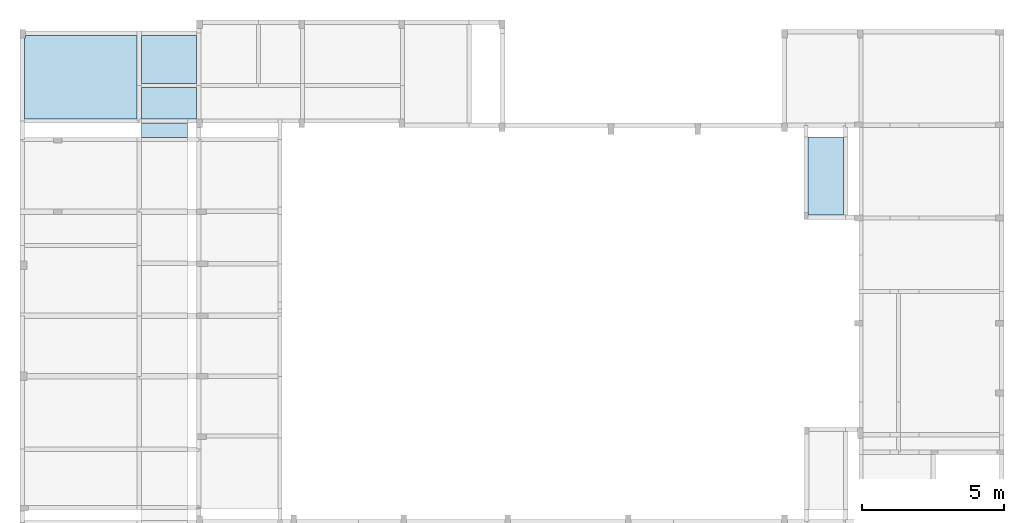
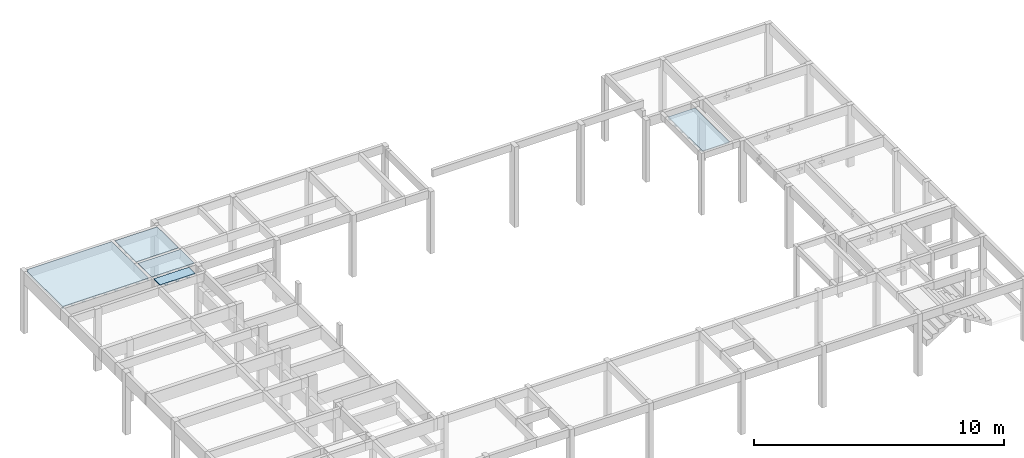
# One storey, part 16 of 21: 5 slabs.
"""IFC4 building model written with IfcOpenShell, lengths in centimetres."""

from ifc_helpers import new_model, si_unit, derived_unit, frame, origin_with_axes, place, context, project, spatial, polyline, outline, extrude, faceted_brep, material, element, save


model = new_model("IFC4")

# Units and contexts
model_context = context("Model", 3, precision=1e-05, world=origin_with_axes(), identifier="Body")
ifc_project = project(units=[si_unit("LENGTHUNIT", "METRE", prefix="CENTI"), si_unit("VOLUMEUNIT", "CUBIC_METRE"), si_unit("AREAUNIT", "SQUARE_METRE"), si_unit("POWERUNIT", "WATT"), si_unit("LUMINOUSFLUXUNIT", "LUMEN"), si_unit("ELECTRICCURRENTUNIT", "AMPERE"), si_unit("PRESSUREUNIT", "PASCAL", prefix="KILO"), si_unit("MASSUNIT", "GRAM", prefix="KILO"), si_unit("PLANEANGLEUNIT", "RADIAN"), derived_unit("VOLUMETRICFLOWRATEUNIT", [(si_unit("LENGTHUNIT", "METRE"), 3), (si_unit("TIMEUNIT", "SECOND"), -1)])], contexts=[model_context])

# Site, building, storey
site_placement = place(None, origin_with_axes())
site = spatial("IfcSite", under=ifc_project, at=site_placement)
building_placement = place(site_placement, frame((0.0, 0.0, -295.0)))
building = spatial("IfcBuilding", under=site, at=building_placement)
placement_1 = place(building_placement, origin_with_axes())
placement_2 = place(placement_1, frame((0.0, 0.0, 101.0), z_axis=(0.0, 0.0, 1.0), x_axis=(1.0, 0.0, 0.0)))
placement_3 = place(placement_2, frame((0.0, 0.0, 204.0), z_axis=(0.0, 0.0, 1.0), x_axis=(1.0, 0.0, 0.0)))
placement_4 = place(placement_3, frame((0.0, 0.0, 292.0), z_axis=(0.0, 0.0, 1.0), x_axis=(1.0, 0.0, 0.0)))
storey_placement = place(placement_4, frame((0.0, 0.0, 302.0), z_axis=(0.0, 0.0, 1.0), x_axis=(1.0, 0.0, 0.0)))
storey = spatial("IfcBuildingStorey", under=building, at=storey_placement, Name="PAVTO 02", CompositionType="ELEMENT", Elevation=604.0)

# Slabs
ifc_material = material(Name="Concreto")
slab_1_placement = place(storey_placement, frame((765.4005, -5272.2645, 0.0), z_axis=(0.0, 0.0, 1.0), x_axis=(1.0, 0.0, 0.0)))
element("IfcSlab", 1, at=slab_1_placement, inside=storey, material=ifc_material, Name="L201", PredefinedType="FLOOR", context=model_context, shape_type="SolidModel", body=[
    extrude(outline(polyline([(198.669, -147.424), (198.67, 147.425), (-193.67, 147.425), (-193.669, 137.714), (-198.669, 137.714), (-198.669, -147.424), (198.669, -147.424), (198.669, -147.424)])), frame((-0.0005, -0.0005, -4.0), z_axis=(0.0, 0.0, 1.0), x_axis=(1.0, 0.0, 0.0)), (0.0, 0.0, 1.0), 4.0),
    faceted_brep([(-5.0005, -147.4245, -12.0), (-5.0005, 147.4245, -12.0), (4.9995, 147.4245, -12.0), (4.9995, -147.4245, -12.0), (4.9995, -147.4245, -4.0), (4.9995, 147.4245, -4.0), (-5.0005, 147.4245, -4.0), (-5.0005, -147.4245, -4.0)], [[[0, 1, 2, 3]], [[4, 5, 6, 7]], [[4, 3, 5]], [[3, 2, 5]], [[5, 2, 6]], [[2, 1, 6]], [[6, 1, 7]], [[1, 0, 7]], [[7, 0, 4]], [[0, 3, 4]]]),
    faceted_brep([(-6.5005, -147.4245, -12.0), (-6.5005, 147.4245, -12.0), (-5.0005, 147.4245, -12.0), (-5.0005, -147.4245, -12.0), (-5.0005, -147.4245, -9.0), (-5.0005, 147.4245, -9.0), (-6.5005, 147.4245, -9.0), (-6.5005, -147.4245, -9.0)], [[[0, 1, 2, 3]], [[4, 5, 6, 7]], [[4, 3, 5]], [[3, 2, 5]], [[5, 2, 6]], [[2, 1, 6]], [[6, 1, 7]], [[1, 0, 7]], [[7, 0, 4]], [[0, 3, 4]]]),
    faceted_brep([(4.9995, -147.4245, -12.0), (4.9995, 147.4245, -12.0), (6.4995, 147.4245, -12.0), (6.4995, -147.4245, -12.0), (6.4995, -147.4245, -9.0), (6.4995, 147.4245, -9.0), (4.9995, 147.4245, -9.0), (4.9995, -147.4245, -9.0)], [[[0, 1, 2, 3]], [[4, 5, 6, 7]], [[4, 3, 5]], [[3, 2, 5]], [[5, 2, 6]], [[2, 1, 6]], [[6, 1, 7]], [[1, 0, 7]], [[7, 0, 4]], [[0, 3, 4]]]),
    faceted_brep([(-55.0005, -147.4245, -12.0), (-55.0005, 147.4245, -12.0), (-45.0005, 147.4245, -12.0), (-45.0005, -147.4245, -12.0), (-45.0005, -147.4245, -4.0), (-45.0005, 147.4245, -4.0), (-55.0005, 147.4245, -4.0), (-55.0005, -147.4245, -4.0)], [[[0, 1, 2, 3]], [[4, 5, 6, 7]], [[4, 3, 5]], [[3, 2, 5]], [[5, 2, 6]], [[2, 1, 6]], [[6, 1, 7]], [[1, 0, 7]], [[7, 0, 4]], [[0, 3, 4]]]),
    faceted_brep([(-56.5005, -147.4245, -12.0), (-56.5005, 147.4245, -12.0), (-55.0005, 147.4245, -12.0), (-55.0005, -147.4245, -12.0), (-55.0005, -147.4245, -9.0), (-55.0005, 147.4245, -9.0), (-56.5005, 147.4245, -9.0), (-56.5005, -147.4245, -9.0)], [[[0, 1, 2, 3]], [[4, 5, 6, 7]], [[4, 3, 5]], [[3, 2, 5]], [[5, 2, 6]], [[2, 1, 6]], [[6, 1, 7]], [[1, 0, 7]], [[7, 0, 4]], [[0, 3, 4]]]),
    faceted_brep([(-45.0005, -147.4245, -12.0), (-45.0005, 147.4245, -12.0), (-43.5005, 147.4245, -12.0), (-43.5005, -147.4245, -12.0), (-43.5005, -147.4245, -9.0), (-43.5005, 147.4245, -9.0), (-45.0005, 147.4245, -9.0), (-45.0005, -147.4245, -9.0)], [[[0, 1, 2, 3]], [[4, 5, 6, 7]], [[4, 3, 5]], [[3, 2, 5]], [[5, 2, 6]], [[2, 1, 6]], [[6, 1, 7]], [[1, 0, 7]], [[7, 0, 4]], [[0, 3, 4]]]),
    faceted_brep([(-105.0005, -147.4245, -12.0), (-105.0005, 147.4245, -12.0), (-95.0005, 147.4245, -12.0), (-95.0005, -147.4245, -12.0), (-95.0005, -147.4245, -4.0), (-95.0005, 147.4245, -4.0), (-105.0005, 147.4245, -4.0), (-105.0005, -147.4245, -4.0)], [[[0, 1, 2, 3]], [[4, 5, 6, 7]], [[4, 3, 5]], [[3, 2, 5]], [[5, 2, 6]], [[2, 1, 6]], [[6, 1, 7]], [[1, 0, 7]], [[7, 0, 4]], [[0, 3, 4]]]),
    faceted_brep([(-106.5005, -147.4245, -12.0), (-106.5005, 147.4245, -12.0), (-105.0005, 147.4245, -12.0), (-105.0005, -147.4245, -12.0), (-105.0005, -147.4245, -9.0), (-105.0005, 147.4245, -9.0), (-106.5005, 147.4245, -9.0), (-106.5005, -147.4245, -9.0)], [[[0, 1, 2, 3]], [[4, 5, 6, 7]], [[4, 3, 5]], [[3, 2, 5]], [[5, 2, 6]], [[2, 1, 6]], [[6, 1, 7]], [[1, 0, 7]], [[7, 0, 4]], [[0, 3, 4]]]),
    faceted_brep([(-95.0005, -147.4245, -12.0), (-95.0005, 147.4245, -12.0), (-93.5005, 147.4245, -12.0), (-93.5005, -147.4245, -12.0), (-93.5005, -147.4245, -9.0), (-93.5005, 147.4245, -9.0), (-95.0005, 147.4245, -9.0), (-95.0005, -147.4245, -9.0)], [[[0, 1, 2, 3]], [[4, 5, 6, 7]], [[4, 3, 5]], [[3, 2, 5]], [[5, 2, 6]], [[2, 1, 6]], [[6, 1, 7]], [[1, 0, 7]], [[7, 0, 4]], [[0, 3, 4]]]),
    faceted_brep([(-155.0005, -147.4245, -12.0), (-155.0005, 147.4245, -12.0), (-145.0005, 147.4245, -12.0), (-145.0005, -147.4245, -12.0), (-145.0005, -147.4245, -4.0), (-145.0005, 147.4245, -4.0), (-155.0005, 147.4245, -4.0), (-155.0005, -147.4245, -4.0)], [[[0, 1, 2, 3]], [[4, 5, 6, 7]], [[4, 3, 5]], [[3, 2, 5]], [[5, 2, 6]], [[2, 1, 6]], [[6, 1, 7]], [[1, 0, 7]], [[7, 0, 4]], [[0, 3, 4]]]),
    faceted_brep([(-156.5005, -147.4245, -12.0), (-156.5005, 147.4245, -12.0), (-155.0005, 147.4245, -12.0), (-155.0005, -147.4245, -12.0), (-155.0005, -147.4245, -9.0), (-155.0005, 147.4245, -9.0), (-156.5005, 147.4245, -9.0), (-156.5005, -147.4245, -9.0)], [[[0, 1, 2, 3]], [[4, 5, 6, 7]], [[4, 3, 5]], [[3, 2, 5]], [[5, 2, 6]], [[2, 1, 6]], [[6, 1, 7]], [[1, 0, 7]], [[7, 0, 4]], [[0, 3, 4]]]),
    faceted_brep([(-145.0005, -147.4245, -12.0), (-145.0005, 147.4245, -12.0), (-143.5005, 147.4245, -12.0), (-143.5005, -147.4245, -12.0), (-143.5005, -147.4245, -9.0), (-143.5005, 147.4245, -9.0), (-145.0005, 147.4245, -9.0), (-145.0005, -147.4245, -9.0)], [[[0, 1, 2, 3]], [[4, 5, 6, 7]], [[4, 3, 5]], [[3, 2, 5]], [[5, 2, 6]], [[2, 1, 6]], [[6, 1, 7]], [[1, 0, 7]], [[7, 0, 4]], [[0, 3, 4]]]),
    faceted_brep([(-198.6695, -147.4245, -12.0), (-198.6695, 137.7135, -12.0), (-195.0005, 137.7135, -12.0), (-195.0005, -147.4245, -12.0), (-195.0005, -147.4245, -4.0), (-195.0005, 137.7135, -4.0), (-198.6695, 137.7135, -4.0), (-198.6695, -147.4245, -4.0)], [[[0, 1, 2, 3]], [[4, 5, 6, 7]], [[4, 3, 5]], [[3, 2, 5]], [[5, 2, 6]], [[2, 1, 6]], [[6, 1, 7]], [[1, 0, 7]], [[7, 0, 4]], [[0, 3, 4]]]),
    faceted_brep([(-195.0005, -147.4245, -12.0), (-195.0005, 137.7135, -12.0), (-193.5005, 147.4245, -12.0), (-193.5005, -147.4245, -12.0), (-193.5005, -147.4245, -9.0), (-193.5005, 147.4245, -9.0), (-195.0005, 137.7135, -9.0), (-195.0005, -147.4245, -9.0)], [[[0, 1, 2, 3]], [[4, 5, 6, 7]], [[4, 3, 5]], [[3, 2, 5]], [[5, 2, 6]], [[2, 1, 6]], [[6, 1, 7]], [[1, 0, 7]], [[7, 0, 4]], [[0, 3, 4]]]),
    faceted_brep([(44.9995, -147.4245, -12.0), (44.9995, 147.4245, -12.0), (54.9995, 147.4245, -12.0), (54.9995, -147.4245, -12.0), (54.9995, -147.4245, -4.0), (54.9995, 147.4245, -4.0), (44.9995, 147.4245, -4.0), (44.9995, -147.4245, -4.0)], [[[0, 1, 2, 3]], [[4, 5, 6, 7]], [[4, 3, 5]], [[3, 2, 5]], [[5, 2, 6]], [[2, 1, 6]], [[6, 1, 7]], [[1, 0, 7]], [[7, 0, 4]], [[0, 3, 4]]]),
    faceted_brep([(43.4995, -147.4245, -12.0), (43.4995, 147.4245, -12.0), (44.9995, 147.4245, -12.0), (44.9995, -147.4245, -12.0), (44.9995, -147.4245, -9.0), (44.9995, 147.4245, -9.0), (43.4995, 147.4245, -9.0), (43.4995, -147.4245, -9.0)], [[[0, 1, 2, 3]], [[4, 5, 6, 7]], [[4, 3, 5]], [[3, 2, 5]], [[5, 2, 6]], [[2, 1, 6]], [[6, 1, 7]], [[1, 0, 7]], [[7, 0, 4]], [[0, 3, 4]]]),
    faceted_brep([(54.9995, -147.4245, -12.0), (54.9995, 147.4245, -12.0), (56.4995, 147.4245, -12.0), (56.4995, -147.4245, -12.0), (56.4995, -147.4245, -9.0), (56.4995, 147.4245, -9.0), (54.9995, 147.4245, -9.0), (54.9995, -147.4245, -9.0)], [[[0, 1, 2, 3]], [[4, 5, 6, 7]], [[4, 3, 5]], [[3, 2, 5]], [[5, 2, 6]], [[2, 1, 6]], [[6, 1, 7]], [[1, 0, 7]], [[7, 0, 4]], [[0, 3, 4]]]),
    faceted_brep([(94.9995, -147.4245, -12.0), (94.9995, 147.4245, -12.0), (104.9995, 147.4245, -12.0), (104.9995, -147.4245, -12.0), (104.9995, -147.4245, -4.0), (104.9995, 147.4245, -4.0), (94.9995, 147.4245, -4.0), (94.9995, -147.4245, -4.0)], [[[0, 1, 2, 3]], [[4, 5, 6, 7]], [[4, 3, 5]], [[3, 2, 5]], [[5, 2, 6]], [[2, 1, 6]], [[6, 1, 7]], [[1, 0, 7]], [[7, 0, 4]], [[0, 3, 4]]]),
    faceted_brep([(93.4995, -147.4245, -12.0), (93.4995, 147.4245, -12.0), (94.9995, 147.4245, -12.0), (94.9995, -147.4245, -12.0), (94.9995, -147.4245, -9.0), (94.9995, 147.4245, -9.0), (93.4995, 147.4245, -9.0), (93.4995, -147.4245, -9.0)], [[[0, 1, 2, 3]], [[4, 5, 6, 7]], [[4, 3, 5]], [[3, 2, 5]], [[5, 2, 6]], [[2, 1, 6]], [[6, 1, 7]], [[1, 0, 7]], [[7, 0, 4]], [[0, 3, 4]]]),
    faceted_brep([(104.9995, -147.4245, -12.0), (104.9995, 147.4245, -12.0), (106.4995, 147.4245, -12.0), (106.4995, -147.4245, -12.0), (106.4995, -147.4245, -9.0), (106.4995, 147.4245, -9.0), (104.9995, 147.4245, -9.0), (104.9995, -147.4245, -9.0)], [[[0, 1, 2, 3]], [[4, 5, 6, 7]], [[4, 3, 5]], [[3, 2, 5]], [[5, 2, 6]], [[2, 1, 6]], [[6, 1, 7]], [[1, 0, 7]], [[7, 0, 4]], [[0, 3, 4]]]),
    faceted_brep([(144.9995, -147.4245, -12.0), (144.9995, 147.4245, -12.0), (154.9995, 147.4245, -12.0), (154.9995, -147.4245, -12.0), (154.9995, -147.4245, -4.0), (154.9995, 147.4245, -4.0), (144.9995, 147.4245, -4.0), (144.9995, -147.4245, -4.0)], [[[0, 1, 2, 3]], [[4, 5, 6, 7]], [[4, 3, 5]], [[3, 2, 5]], [[5, 2, 6]], [[2, 1, 6]], [[6, 1, 7]], [[1, 0, 7]], [[7, 0, 4]], [[0, 3, 4]]]),
    faceted_brep([(143.4995, -147.4245, -12.0), (143.4995, 147.4245, -12.0), (144.9995, 147.4245, -12.0), (144.9995, -147.4245, -12.0), (144.9995, -147.4245, -9.0), (144.9995, 147.4245, -9.0), (143.4995, 147.4245, -9.0), (143.4995, -147.4245, -9.0)], [[[0, 1, 2, 3]], [[4, 5, 6, 7]], [[4, 3, 5]], [[3, 2, 5]], [[5, 2, 6]], [[2, 1, 6]], [[6, 1, 7]], [[1, 0, 7]], [[7, 0, 4]], [[0, 3, 4]]]),
    faceted_brep([(154.9995, -147.4245, -12.0), (154.9995, 147.4245, -12.0), (156.4995, 147.4245, -12.0), (156.4995, -147.4245, -12.0), (156.4995, -147.4245, -9.0), (156.4995, 147.4245, -9.0), (154.9995, 147.4245, -9.0), (154.9995, -147.4245, -9.0)], [[[0, 1, 2, 3]], [[4, 5, 6, 7]], [[4, 3, 5]], [[3, 2, 5]], [[5, 2, 6]], [[2, 1, 6]], [[6, 1, 7]], [[1, 0, 7]], [[7, 0, 4]], [[0, 3, 4]]]),
    faceted_brep([(194.9995, -147.4245, -12.0), (194.9995, 147.4245, -12.0), (198.669, 147.4245, -12.0), (198.669, -147.4245, -12.0), (198.669, -147.4245, -4.0), (198.669, 147.4245, -4.0), (194.9995, 147.4245, -4.0), (194.9995, -147.4245, -4.0)], [[[0, 1, 2, 3]], [[4, 5, 6, 7]], [[4, 3, 5]], [[3, 2, 5]], [[5, 2, 6]], [[2, 1, 6]], [[6, 1, 7]], [[1, 0, 7]], [[7, 0, 4]], [[0, 3, 4]]]),
    faceted_brep([(193.4995, -147.4245, -12.0), (193.4995, 147.4245, -12.0), (194.9995, 147.4245, -12.0), (194.9995, -147.4245, -12.0), (194.9995, -147.4245, -9.0), (194.9995, 147.4245, -9.0), (193.4995, 147.4245, -9.0), (193.4995, -147.4245, -9.0)], [[[0, 1, 2, 3]], [[4, 5, 6, 7]], [[4, 3, 5]], [[3, 2, 5]], [[5, 2, 6]], [[2, 1, 6]], [[6, 1, 7]], [[1, 0, 7]], [[7, 0, 4]], [[0, 3, 4]]]),
])
slab_2_placement = place(storey_placement, frame((1076.4845, -5209.5905, -2.0), z_axis=(0.0, 0.0, 1.0), x_axis=(1.0, 0.0, 0.0)))
element("IfcSlab", 2, at=slab_2_placement, inside=storey, material=ifc_material, Name="L202", PredefinedType="FLOOR", context=model_context, shape_type="SolidModel", body=[
    extrude(outline(polyline([(97.414, 84.749), (-97.414, 84.749), (-97.415, -84.75), (97.414, -84.75), (97.414, 84.749), (97.414, 84.749)])), frame((0.0005, 0.0005, -4.0), z_axis=(0.0, 0.0, 1.0), x_axis=(1.0, 0.0, 0.0)), (0.0, 0.0, 1.0), 4.0),
    faceted_brep([(-97.414, -39.9995, -12.0), (97.4145, -39.9995, -12.0), (97.4145, -49.9995, -12.0), (-97.414, -49.9995, -12.0), (-97.414, -49.9995, -4.0), (97.4145, -49.9995, -4.0), (97.4145, -39.9995, -4.0), (-97.414, -39.9995, -4.0)], [[[0, 1, 2, 3]], [[4, 5, 6, 7]], [[4, 3, 5]], [[3, 2, 5]], [[5, 2, 6]], [[2, 1, 6]], [[6, 1, 7]], [[1, 0, 7]], [[7, 0, 4]], [[0, 3, 4]]]),
    faceted_brep([(-97.414, -38.4995, -12.0), (97.4145, -38.4995, -12.0), (97.4145, -39.9995, -12.0), (-97.414, -39.9995, -12.0), (-97.414, -39.9995, -9.0), (97.4145, -39.9995, -9.0), (97.4145, -38.4995, -9.0), (-97.414, -38.4995, -9.0)], [[[0, 1, 2, 3]], [[4, 5, 6, 7]], [[4, 3, 5]], [[3, 2, 5]], [[5, 2, 6]], [[2, 1, 6]], [[6, 1, 7]], [[1, 0, 7]], [[7, 0, 4]], [[0, 3, 4]]]),
    faceted_brep([(-97.414, -49.9995, -12.0), (97.4145, -49.9995, -12.0), (97.4145, -51.4995, -12.0), (-97.414, -51.4995, -12.0), (-97.414, -51.4995, -9.0), (97.4145, -51.4995, -9.0), (97.4145, -49.9995, -9.0), (-97.414, -49.9995, -9.0)], [[[0, 1, 2, 3]], [[4, 5, 6, 7]], [[4, 3, 5]], [[3, 2, 5]], [[5, 2, 6]], [[2, 1, 6]], [[6, 1, 7]], [[1, 0, 7]], [[7, 0, 4]], [[0, 3, 4]]]),
    faceted_brep([(-97.414, 10.0005, -12.0), (97.4145, 10.0005, -12.0), (97.4145, 0.0005, -12.0), (-97.414, 0.0005, -12.0), (-97.414, 0.0005, -4.0), (97.4145, 0.0005, -4.0), (97.4145, 10.0005, -4.0), (-97.414, 10.0005, -4.0)], [[[0, 1, 2, 3]], [[4, 5, 6, 7]], [[4, 3, 5]], [[3, 2, 5]], [[5, 2, 6]], [[2, 1, 6]], [[6, 1, 7]], [[1, 0, 7]], [[7, 0, 4]], [[0, 3, 4]]]),
    faceted_brep([(-97.414, 11.5005, -12.0), (97.4145, 11.5005, -12.0), (97.4145, 10.0005, -12.0), (-97.414, 10.0005, -12.0), (-97.414, 10.0005, -9.0), (97.4145, 10.0005, -9.0), (97.4145, 11.5005, -9.0), (-97.414, 11.5005, -9.0)], [[[0, 1, 2, 3]], [[4, 5, 6, 7]], [[4, 3, 5]], [[3, 2, 5]], [[5, 2, 6]], [[2, 1, 6]], [[6, 1, 7]], [[1, 0, 7]], [[7, 0, 4]], [[0, 3, 4]]]),
    faceted_brep([(-97.414, 0.0005, -12.0), (97.4145, 0.0005, -12.0), (97.4145, -1.4995, -12.0), (-97.414, -1.4995, -12.0), (-97.414, -1.4995, -9.0), (97.4145, -1.4995, -9.0), (97.4145, 0.0005, -9.0), (-97.414, 0.0005, -9.0)], [[[0, 1, 2, 3]], [[4, 5, 6, 7]], [[4, 3, 5]], [[3, 2, 5]], [[5, 2, 6]], [[2, 1, 6]], [[6, 1, 7]], [[1, 0, 7]], [[7, 0, 4]], [[0, 3, 4]]]),
    faceted_brep([(-97.414, 60.0005, -12.0), (97.4145, 60.0005, -12.0), (97.4145, 50.0005, -12.0), (-97.414, 50.0005, -12.0), (-97.414, 50.0005, -4.0), (97.4145, 50.0005, -4.0), (97.4145, 60.0005, -4.0), (-97.414, 60.0005, -4.0)], [[[0, 1, 2, 3]], [[4, 5, 6, 7]], [[4, 3, 5]], [[3, 2, 5]], [[5, 2, 6]], [[2, 1, 6]], [[6, 1, 7]], [[1, 0, 7]], [[7, 0, 4]], [[0, 3, 4]]]),
    faceted_brep([(-97.414, 61.5005, -12.0), (97.4145, 61.5005, -12.0), (97.4145, 60.0005, -12.0), (-97.414, 60.0005, -12.0), (-97.414, 60.0005, -9.0), (97.4145, 60.0005, -9.0), (97.4145, 61.5005, -9.0), (-97.414, 61.5005, -9.0)], [[[0, 1, 2, 3]], [[4, 5, 6, 7]], [[4, 3, 5]], [[3, 2, 5]], [[5, 2, 6]], [[2, 1, 6]], [[6, 1, 7]], [[1, 0, 7]], [[7, 0, 4]], [[0, 3, 4]]]),
    faceted_brep([(-97.414, 50.0005, -12.0), (97.4145, 50.0005, -12.0), (97.4145, 48.5005, -12.0), (-97.414, 48.5005, -12.0), (-97.414, 48.5005, -9.0), (97.4145, 48.5005, -9.0), (97.4145, 50.0005, -9.0), (-97.414, 50.0005, -9.0)], [[[0, 1, 2, 3]], [[4, 5, 6, 7]], [[4, 3, 5]], [[3, 2, 5]], [[5, 2, 6]], [[2, 1, 6]], [[6, 1, 7]], [[1, 0, 7]], [[7, 0, 4]], [[0, 3, 4]]]),
])
slab_3_placement = place(storey_placement, frame((1076.485, -5364.515, 0.0), z_axis=(0.0, 0.0, 1.0), x_axis=(1.0, 0.0, 0.0)))
element("IfcSlab", 3, at=slab_3_placement, inside=storey, material=ifc_material, Name="L209", PredefinedType="FLOOR", context=model_context, shape_type="SolidModel", body=[
    extrude(outline(polyline([(97.415, 55.174), (-97.414, 55.174), (-97.415, -55.174), (97.415, -55.174), (97.415, 55.174), (97.415, 55.174)])), frame((0.0, 0.0, -4.0), z_axis=(0.0, 0.0, 1.0), x_axis=(1.0, 0.0, 0.0)), (0.0, 0.0, 1.0), 4.0),
    faceted_brep([(-21.5, -55.174, -12.0), (-21.5, 55.174, -12.0), (-11.5, 55.174, -12.0), (-11.5, -55.174, -12.0), (-11.5, -55.174, -4.0), (-11.5, 55.174, -4.0), (-21.5, 55.174, -4.0), (-21.5, -55.174, -4.0)], [[[0, 1, 2, 3]], [[4, 5, 6, 7]], [[4, 3, 5]], [[3, 2, 5]], [[5, 2, 6]], [[2, 1, 6]], [[6, 1, 7]], [[1, 0, 7]], [[7, 0, 4]], [[0, 3, 4]]]),
    faceted_brep([(-23.0, -55.174, -12.0), (-23.0, 55.174, -12.0), (-21.5, 55.174, -12.0), (-21.5, -55.174, -12.0), (-21.5, -55.174, -9.0), (-21.5, 55.174, -9.0), (-23.0, 55.174, -9.0), (-23.0, -55.174, -9.0)], [[[0, 1, 2, 3]], [[4, 5, 6, 7]], [[4, 3, 5]], [[3, 2, 5]], [[5, 2, 6]], [[2, 1, 6]], [[6, 1, 7]], [[1, 0, 7]], [[7, 0, 4]], [[0, 3, 4]]]),
    faceted_brep([(-11.5, -55.174, -12.0), (-11.5, 55.174, -12.0), (-10.0, 55.174, -12.0), (-10.0, -55.174, -12.0), (-10.0, -55.174, -9.0), (-10.0, 55.174, -9.0), (-11.5, 55.174, -9.0), (-11.5, -55.174, -9.0)], [[[0, 1, 2, 3]], [[4, 5, 6, 7]], [[4, 3, 5]], [[3, 2, 5]], [[5, 2, 6]], [[2, 1, 6]], [[6, 1, 7]], [[1, 0, 7]], [[7, 0, 4]], [[0, 3, 4]]]),
    faceted_brep([(-71.5, -55.174, -12.0), (-71.5, 55.174, -12.0), (-61.5, 55.174, -12.0), (-61.5, -55.174, -12.0), (-61.5, -55.174, -4.0), (-61.5, 55.174, -4.0), (-71.5, 55.174, -4.0), (-71.5, -55.174, -4.0)], [[[0, 1, 2, 3]], [[4, 5, 6, 7]], [[4, 3, 5]], [[3, 2, 5]], [[5, 2, 6]], [[2, 1, 6]], [[6, 1, 7]], [[1, 0, 7]], [[7, 0, 4]], [[0, 3, 4]]]),
    faceted_brep([(-73.0, -55.174, -12.0), (-73.0, 55.174, -12.0), (-71.5, 55.174, -12.0), (-71.5, -55.174, -12.0), (-71.5, -55.174, -9.0), (-71.5, 55.174, -9.0), (-73.0, 55.174, -9.0), (-73.0, -55.174, -9.0)], [[[0, 1, 2, 3]], [[4, 5, 6, 7]], [[4, 3, 5]], [[3, 2, 5]], [[5, 2, 6]], [[2, 1, 6]], [[6, 1, 7]], [[1, 0, 7]], [[7, 0, 4]], [[0, 3, 4]]]),
    faceted_brep([(-61.5, -55.174, -12.0), (-61.5, 55.174, -12.0), (-60.0, 55.174, -12.0), (-60.0, -55.174, -12.0), (-60.0, -55.174, -9.0), (-60.0, 55.174, -9.0), (-61.5, 55.174, -9.0), (-61.5, -55.174, -9.0)], [[[0, 1, 2, 3]], [[4, 5, 6, 7]], [[4, 3, 5]], [[3, 2, 5]], [[5, 2, 6]], [[2, 1, 6]], [[6, 1, 7]], [[1, 0, 7]], [[7, 0, 4]], [[0, 3, 4]]]),
    faceted_brep([(28.5, -55.174, -12.0), (28.5, 55.174, -12.0), (38.5, 55.174, -12.0), (38.5, -55.174, -12.0), (38.5, -55.174, -4.0), (38.5, 55.174, -4.0), (28.5, 55.174, -4.0), (28.5, -55.174, -4.0)], [[[0, 1, 2, 3]], [[4, 5, 6, 7]], [[4, 3, 5]], [[3, 2, 5]], [[5, 2, 6]], [[2, 1, 6]], [[6, 1, 7]], [[1, 0, 7]], [[7, 0, 4]], [[0, 3, 4]]]),
    faceted_brep([(27.0, -55.174, -12.0), (27.0, 55.174, -12.0), (28.5, 55.174, -12.0), (28.5, -55.174, -12.0), (28.5, -55.174, -9.0), (28.5, 55.174, -9.0), (27.0, 55.174, -9.0), (27.0, -55.174, -9.0)], [[[0, 1, 2, 3]], [[4, 5, 6, 7]], [[4, 3, 5]], [[3, 2, 5]], [[5, 2, 6]], [[2, 1, 6]], [[6, 1, 7]], [[1, 0, 7]], [[7, 0, 4]], [[0, 3, 4]]]),
    faceted_brep([(38.5, -55.174, -12.0), (38.5, 55.174, -12.0), (40.0, 55.174, -12.0), (40.0, -55.174, -12.0), (40.0, -55.174, -9.0), (40.0, 55.174, -9.0), (38.5, 55.174, -9.0), (38.5, -55.174, -9.0)], [[[0, 1, 2, 3]], [[4, 5, 6, 7]], [[4, 3, 5]], [[3, 2, 5]], [[5, 2, 6]], [[2, 1, 6]], [[6, 1, 7]], [[1, 0, 7]], [[7, 0, 4]], [[0, 3, 4]]]),
    faceted_brep([(78.5, -55.174, -12.0), (78.5, 55.174, -12.0), (88.5, 55.174, -12.0), (88.5, -55.174, -12.0), (88.5, -55.174, -4.0), (88.5, 55.174, -4.0), (78.5, 55.174, -4.0), (78.5, -55.174, -4.0)], [[[0, 1, 2, 3]], [[4, 5, 6, 7]], [[4, 3, 5]], [[3, 2, 5]], [[5, 2, 6]], [[2, 1, 6]], [[6, 1, 7]], [[1, 0, 7]], [[7, 0, 4]], [[0, 3, 4]]]),
    faceted_brep([(77.0, -55.174, -12.0), (77.0, 55.174, -12.0), (78.5, 55.174, -12.0), (78.5, -55.174, -12.0), (78.5, -55.174, -9.0), (78.5, 55.174, -9.0), (77.0, 55.174, -9.0), (77.0, -55.174, -9.0)], [[[0, 1, 2, 3]], [[4, 5, 6, 7]], [[4, 3, 5]], [[3, 2, 5]], [[5, 2, 6]], [[2, 1, 6]], [[6, 1, 7]], [[1, 0, 7]], [[7, 0, 4]], [[0, 3, 4]]]),
    faceted_brep([(88.5, -55.174, -12.0), (88.5, 55.174, -12.0), (90.0, 55.174, -12.0), (90.0, -55.174, -12.0), (90.0, -55.174, -9.0), (90.0, 55.174, -9.0), (88.5, 55.174, -9.0), (88.5, -55.174, -9.0)], [[[0, 1, 2, 3]], [[4, 5, 6, 7]], [[4, 3, 5]], [[3, 2, 5]], [[5, 2, 6]], [[2, 1, 6]], [[6, 1, 7]], [[1, 0, 7]], [[7, 0, 4]], [[0, 3, 4]]]),
])
slab_4_placement = place(storey_placement, frame((1060.4405, -5459.4245, 0.0), z_axis=(0.0, 0.0, 1.0), x_axis=(1.0, 0.0, 0.0)))
element("IfcSlab", 4, at=slab_4_placement, inside=storey, material=ifc_material, Name="L212", PredefinedType="FLOOR", context=model_context, shape_type="SolidModel", body=[
    extrude(outline(polyline([(80.46, 24.735), (-80.459, 24.735), (-80.459, -24.734), (80.46, -24.734), (80.46, 24.735), (80.46, 24.735)])), frame((-0.0005, -0.0005, -4.0), z_axis=(0.0, 0.0, 1.0), x_axis=(1.0, 0.0, 0.0)), (0.0, 0.0, 1.0), 4.0),
    faceted_brep([(-5.0005, -24.7345, -12.0), (-5.0005, 24.7345, -12.0), (4.9995, 24.7345, -12.0), (4.9995, -24.7345, -12.0), (4.9995, -24.7345, -4.0), (4.9995, 24.7345, -4.0), (-5.0005, 24.7345, -4.0), (-5.0005, -24.7345, -4.0)], [[[0, 1, 2, 3]], [[4, 5, 6, 7]], [[4, 3, 5]], [[3, 2, 5]], [[5, 2, 6]], [[2, 1, 6]], [[6, 1, 7]], [[1, 0, 7]], [[7, 0, 4]], [[0, 3, 4]]]),
    faceted_brep([(-6.5005, -24.7345, -12.0), (-6.5005, 24.7345, -12.0), (-5.0005, 24.7345, -12.0), (-5.0005, -24.7345, -12.0), (-5.0005, -24.7345, -9.0), (-5.0005, 24.7345, -9.0), (-6.5005, 24.7345, -9.0), (-6.5005, -24.7345, -9.0)], [[[0, 1, 2, 3]], [[4, 5, 6, 7]], [[4, 3, 5]], [[3, 2, 5]], [[5, 2, 6]], [[2, 1, 6]], [[6, 1, 7]], [[1, 0, 7]], [[7, 0, 4]], [[0, 3, 4]]]),
    faceted_brep([(4.9995, -24.7345, -12.0), (4.9995, 24.7345, -12.0), (6.4995, 24.7345, -12.0), (6.4995, -24.7345, -12.0), (6.4995, -24.7345, -9.0), (6.4995, 24.7345, -9.0), (4.9995, 24.7345, -9.0), (4.9995, -24.7345, -9.0)], [[[0, 1, 2, 3]], [[4, 5, 6, 7]], [[4, 3, 5]], [[3, 2, 5]], [[5, 2, 6]], [[2, 1, 6]], [[6, 1, 7]], [[1, 0, 7]], [[7, 0, 4]], [[0, 3, 4]]]),
    faceted_brep([(-55.0005, -24.7345, -12.0), (-55.0005, 24.7345, -12.0), (-45.0005, 24.7345, -12.0), (-45.0005, -24.7345, -12.0), (-45.0005, -24.7345, -4.0), (-45.0005, 24.7345, -4.0), (-55.0005, 24.7345, -4.0), (-55.0005, -24.7345, -4.0)], [[[0, 1, 2, 3]], [[4, 5, 6, 7]], [[4, 3, 5]], [[3, 2, 5]], [[5, 2, 6]], [[2, 1, 6]], [[6, 1, 7]], [[1, 0, 7]], [[7, 0, 4]], [[0, 3, 4]]]),
    faceted_brep([(-56.5005, -24.7345, -12.0), (-56.5005, 24.7345, -12.0), (-55.0005, 24.7345, -12.0), (-55.0005, -24.7345, -12.0), (-55.0005, -24.7345, -9.0), (-55.0005, 24.7345, -9.0), (-56.5005, 24.7345, -9.0), (-56.5005, -24.7345, -9.0)], [[[0, 1, 2, 3]], [[4, 5, 6, 7]], [[4, 3, 5]], [[3, 2, 5]], [[5, 2, 6]], [[2, 1, 6]], [[6, 1, 7]], [[1, 0, 7]], [[7, 0, 4]], [[0, 3, 4]]]),
    faceted_brep([(-45.0005, -24.7345, -12.0), (-45.0005, 24.7345, -12.0), (-43.5005, 24.7345, -12.0), (-43.5005, -24.7345, -12.0), (-43.5005, -24.7345, -9.0), (-43.5005, 24.7345, -9.0), (-45.0005, 24.7345, -9.0), (-45.0005, -24.7345, -9.0)], [[[0, 1, 2, 3]], [[4, 5, 6, 7]], [[4, 3, 5]], [[3, 2, 5]], [[5, 2, 6]], [[2, 1, 6]], [[6, 1, 7]], [[1, 0, 7]], [[7, 0, 4]], [[0, 3, 4]]]),
    faceted_brep([(44.9995, -24.7345, -12.0), (44.9995, 24.7345, -12.0), (54.9995, 24.7345, -12.0), (54.9995, -24.7345, -12.0), (54.9995, -24.7345, -4.0), (54.9995, 24.7345, -4.0), (44.9995, 24.7345, -4.0), (44.9995, -24.7345, -4.0)], [[[0, 1, 2, 3]], [[4, 5, 6, 7]], [[4, 3, 5]], [[3, 2, 5]], [[5, 2, 6]], [[2, 1, 6]], [[6, 1, 7]], [[1, 0, 7]], [[7, 0, 4]], [[0, 3, 4]]]),
    faceted_brep([(43.4995, -24.7345, -12.0), (43.4995, 24.7345, -12.0), (44.9995, 24.7345, -12.0), (44.9995, -24.7345, -12.0), (44.9995, -24.7345, -9.0), (44.9995, 24.7345, -9.0), (43.4995, 24.7345, -9.0), (43.4995, -24.7345, -9.0)], [[[0, 1, 2, 3]], [[4, 5, 6, 7]], [[4, 3, 5]], [[3, 2, 5]], [[5, 2, 6]], [[2, 1, 6]], [[6, 1, 7]], [[1, 0, 7]], [[7, 0, 4]], [[0, 3, 4]]]),
    faceted_brep([(54.9995, -24.7345, -12.0), (54.9995, 24.7345, -12.0), (56.4995, 24.7345, -12.0), (56.4995, -24.7345, -12.0), (56.4995, -24.7345, -9.0), (56.4995, 24.7345, -9.0), (54.9995, 24.7345, -9.0), (54.9995, -24.7345, -9.0)], [[[0, 1, 2, 3]], [[4, 5, 6, 7]], [[4, 3, 5]], [[3, 2, 5]], [[5, 2, 6]], [[2, 1, 6]], [[6, 1, 7]], [[1, 0, 7]], [[7, 0, 4]], [[0, 3, 4]]]),
])
slab_5_placement = place(storey_placement, frame((3389.3145, -5620.41, -2.0), z_axis=(0.0, 0.0, 1.0), x_axis=(1.0, 0.0, 0.0)))
element("IfcSlab", 5, at=slab_5_placement, inside=storey, material=ifc_material, Name="L215", PredefinedType="FLOOR", context=model_context, shape_type="SolidModel", body=[
    extrude(outline(polyline([(62.395264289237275, 138.139), (-62.41373571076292, 138.139), (-62.41473571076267, -138.14), (62.41426428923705, -138.14), (62.395264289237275, 138.139), (62.395264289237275, 138.139)])), frame((0.000235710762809, 0.0, -4.0), z_axis=(0.0, 0.0, 1.0), x_axis=(1.0, 0.0, 0.0)), (0.0, 0.0, 1.0), 4.0),
    faceted_brep([(-62.414, 138.14, -12.0), (62.395499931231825, 138.14, -12.0), (62.39618764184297, 128.14, -12.0), (-62.414, 128.14, -12.0), (-62.414, 128.14, -4.0), (62.39618764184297, 128.14, -4.0), (62.395499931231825, 138.14, -4.0), (-62.414, 138.14, -4.0)], [[[0, 1, 2, 3]], [[4, 5, 6, 7]], [[4, 3, 5]], [[3, 2, 5]], [[5, 2, 6]], [[2, 1, 6]], [[6, 1, 7]], [[1, 0, 7]], [[7, 0, 4]], [[0, 3, 4]]]),
    faceted_brep([(-62.414, 128.14, -12.0), (62.39618764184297, 128.14, -12.0), (62.396290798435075, 126.64, -12.0), (-62.414, 126.64, -12.0), (-62.414, 126.64, -9.0), (62.396290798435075, 126.64, -9.0), (62.39618764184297, 128.14, -9.0), (-62.414, 128.14, -9.0)], [[[0, 1, 2, 3]], [[4, 5, 6, 7]], [[4, 3, 5]], [[3, 2, 5]], [[5, 2, 6]], [[2, 1, 6]], [[6, 1, 7]], [[1, 0, 7]], [[7, 0, 4]], [[0, 3, 4]]]),
    faceted_brep([(-62.414, 88.14, -12.0), (62.398938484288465, 88.14, -12.0), (62.39962619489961, 78.14, -12.0), (-62.414, 78.14, -12.0), (-62.414, 78.14, -4.0), (62.39962619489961, 78.14, -4.0), (62.398938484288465, 88.14, -4.0), (-62.414, 88.14, -4.0)], [[[0, 1, 2, 3]], [[4, 5, 6, 7]], [[4, 3, 5]], [[3, 2, 5]], [[5, 2, 6]], [[2, 1, 6]], [[6, 1, 7]], [[1, 0, 7]], [[7, 0, 4]], [[0, 3, 4]]]),
    faceted_brep([(-62.414, 89.64, -12.0), (62.398835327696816, 89.64, -12.0), (62.398938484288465, 88.14, -12.0), (-62.414, 88.14, -12.0), (-62.414, 88.14, -9.0), (62.398938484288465, 88.14, -9.0), (62.398835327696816, 89.64, -9.0), (-62.414, 89.64, -9.0)], [[[0, 1, 2, 3]], [[4, 5, 6, 7]], [[4, 3, 5]], [[3, 2, 5]], [[5, 2, 6]], [[2, 1, 6]], [[6, 1, 7]], [[1, 0, 7]], [[7, 0, 4]], [[0, 3, 4]]]),
    faceted_brep([(-62.414, 78.14, -12.0), (62.39962619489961, 78.14, -12.0), (62.399729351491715, 76.64, -12.0), (-62.414, 76.64, -12.0), (-62.414, 76.64, -9.0), (62.399729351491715, 76.64, -9.0), (62.39962619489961, 78.14, -9.0), (-62.414, 78.14, -9.0)], [[[0, 1, 2, 3]], [[4, 5, 6, 7]], [[4, 3, 5]], [[3, 2, 5]], [[5, 2, 6]], [[2, 1, 6]], [[6, 1, 7]], [[1, 0, 7]], [[7, 0, 4]], [[0, 3, 4]]]),
    faceted_brep([(-62.414, 38.14, -12.0), (62.402377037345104, 38.14, -12.0), (62.403064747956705, 28.14, -12.0), (-62.414, 28.14, -12.0), (-62.414, 28.14, -4.0), (62.403064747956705, 28.14, -4.0), (62.402377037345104, 38.14, -4.0), (-62.414, 38.14, -4.0)], [[[0, 1, 2, 3]], [[4, 5, 6, 7]], [[4, 3, 5]], [[3, 2, 5]], [[5, 2, 6]], [[2, 1, 6]], [[6, 1, 7]], [[1, 0, 7]], [[7, 0, 4]], [[0, 3, 4]]]),
    faceted_brep([(-62.414, 39.64, -12.0), (62.402273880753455, 39.64, -12.0), (62.402377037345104, 38.14, -12.0), (-62.414, 38.14, -12.0), (-62.414, 38.14, -9.0), (62.402377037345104, 38.14, -9.0), (62.402273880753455, 39.64, -9.0), (-62.414, 39.64, -9.0)], [[[0, 1, 2, 3]], [[4, 5, 6, 7]], [[4, 3, 5]], [[3, 2, 5]], [[5, 2, 6]], [[2, 1, 6]], [[6, 1, 7]], [[1, 0, 7]], [[7, 0, 4]], [[0, 3, 4]]]),
    faceted_brep([(-62.414, 28.14, -12.0), (62.403064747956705, 28.14, -12.0), (62.403167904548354, 26.64, -12.0), (-62.414, 26.64, -12.0), (-62.414, 26.64, -9.0), (62.403167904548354, 26.64, -9.0), (62.403064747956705, 28.14, -9.0), (-62.414, 28.14, -9.0)], [[[0, 1, 2, 3]], [[4, 5, 6, 7]], [[4, 3, 5]], [[3, 2, 5]], [[5, 2, 6]], [[2, 1, 6]], [[6, 1, 7]], [[1, 0, 7]], [[7, 0, 4]], [[0, 3, 4]]]),
    faceted_brep([(-62.414, -11.86, -12.0), (62.4058155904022, -11.86, -12.0), (62.4065033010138, -21.86, -12.0), (-62.414, -21.86, -12.0), (-62.414, -21.86, -4.0), (62.4065033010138, -21.86, -4.0), (62.4058155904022, -11.86, -4.0), (-62.414, -11.86, -4.0)], [[[0, 1, 2, 3]], [[4, 5, 6, 7]], [[4, 3, 5]], [[3, 2, 5]], [[5, 2, 6]], [[2, 1, 6]], [[6, 1, 7]], [[1, 0, 7]], [[7, 0, 4]], [[0, 3, 4]]]),
    faceted_brep([(-62.414, -10.36, -12.0), (62.40571243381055, -10.36, -12.0), (62.4058155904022, -11.86, -12.0), (-62.414, -11.86, -12.0), (-62.414, -11.86, -9.0), (62.4058155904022, -11.86, -9.0), (62.40571243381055, -10.36, -9.0), (-62.414, -10.36, -9.0)], [[[0, 1, 2, 3]], [[4, 5, 6, 7]], [[4, 3, 5]], [[3, 2, 5]], [[5, 2, 6]], [[2, 1, 6]], [[6, 1, 7]], [[1, 0, 7]], [[7, 0, 4]], [[0, 3, 4]]]),
    faceted_brep([(-62.414, -21.86, -12.0), (62.4065033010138, -21.86, -12.0), (62.40660645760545, -23.36, -12.0), (-62.414, -23.36, -12.0), (-62.414, -23.36, -9.0), (62.40660645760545, -23.36, -9.0), (62.4065033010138, -21.86, -9.0), (-62.414, -21.86, -9.0)], [[[0, 1, 2, 3]], [[4, 5, 6, 7]], [[4, 3, 5]], [[3, 2, 5]], [[5, 2, 6]], [[2, 1, 6]], [[6, 1, 7]], [[1, 0, 7]], [[7, 0, 4]], [[0, 3, 4]]]),
    faceted_brep([(-62.414, -61.86, -12.0), (62.40925414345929, -61.86, -12.0), (62.40994185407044, -71.86, -12.0), (-62.414, -71.86, -12.0), (-62.414, -71.86, -4.0), (62.40994185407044, -71.86, -4.0), (62.40925414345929, -61.86, -4.0), (-62.414, -61.86, -4.0)], [[[0, 1, 2, 3]], [[4, 5, 6, 7]], [[4, 3, 5]], [[3, 2, 5]], [[5, 2, 6]], [[2, 1, 6]], [[6, 1, 7]], [[1, 0, 7]], [[7, 0, 4]], [[0, 3, 4]]]),
    faceted_brep([(-62.414, -60.36, -12.0), (62.40915098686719, -60.36, -12.0), (62.40925414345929, -61.86, -12.0), (-62.414, -61.86, -12.0), (-62.414, -61.86, -9.0), (62.40925414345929, -61.86, -9.0), (62.40915098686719, -60.36, -9.0), (-62.414, -60.36, -9.0)], [[[0, 1, 2, 3]], [[4, 5, 6, 7]], [[4, 3, 5]], [[3, 2, 5]], [[5, 2, 6]], [[2, 1, 6]], [[6, 1, 7]], [[1, 0, 7]], [[7, 0, 4]], [[0, 3, 4]]]),
    faceted_brep([(-62.414, -71.86, -12.0), (62.40994185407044, -71.86, -12.0), (62.41004501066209, -73.36, -12.0), (-62.414, -73.36, -12.0), (-62.414, -73.36, -9.0), (62.41004501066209, -73.36, -9.0), (62.40994185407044, -71.86, -9.0), (-62.414, -71.86, -9.0)], [[[0, 1, 2, 3]], [[4, 5, 6, 7]], [[4, 3, 5]], [[3, 2, 5]], [[5, 2, 6]], [[2, 1, 6]], [[6, 1, 7]], [[1, 0, 7]], [[7, 0, 4]], [[0, 3, 4]]]),
    faceted_brep([(-62.414, -111.86, -12.0), (62.41269269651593, -111.86, -12.0), (62.41338040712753, -121.86, -12.0), (-62.414, -121.86, -12.0), (-62.414, -121.86, -4.0), (62.41338040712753, -121.86, -4.0), (62.41269269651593, -111.86, -4.0), (-62.414, -111.86, -4.0)], [[[0, 1, 2, 3]], [[4, 5, 6, 7]], [[4, 3, 5]], [[3, 2, 5]], [[5, 2, 6]], [[2, 1, 6]], [[6, 1, 7]], [[1, 0, 7]], [[7, 0, 4]], [[0, 3, 4]]]),
    faceted_brep([(-62.414, -110.36, -12.0), (62.412589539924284, -110.36, -12.0), (62.41269269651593, -111.86, -12.0), (-62.414, -111.86, -12.0), (-62.414, -111.86, -9.0), (62.41269269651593, -111.86, -9.0), (62.412589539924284, -110.36, -9.0), (-62.414, -110.36, -9.0)], [[[0, 1, 2, 3]], [[4, 5, 6, 7]], [[4, 3, 5]], [[3, 2, 5]], [[5, 2, 6]], [[2, 1, 6]], [[6, 1, 7]], [[1, 0, 7]], [[7, 0, 4]], [[0, 3, 4]]]),
    faceted_brep([(-62.414, -121.86, -12.0), (62.41338040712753, -121.86, -12.0), (62.41348356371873, -123.36, -12.0), (-62.414, -123.36, -12.0), (-62.414, -123.36, -9.0), (62.41348356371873, -123.36, -9.0), (62.41338040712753, -121.86, -9.0), (-62.414, -121.86, -9.0)], [[[0, 1, 2, 3]], [[4, 5, 6, 7]], [[4, 3, 5]], [[3, 2, 5]], [[5, 2, 6]], [[2, 1, 6]], [[6, 1, 7]], [[1, 0, 7]], [[7, 0, 4]], [[0, 3, 4]]]),
])

save(model, "model.ifc")
